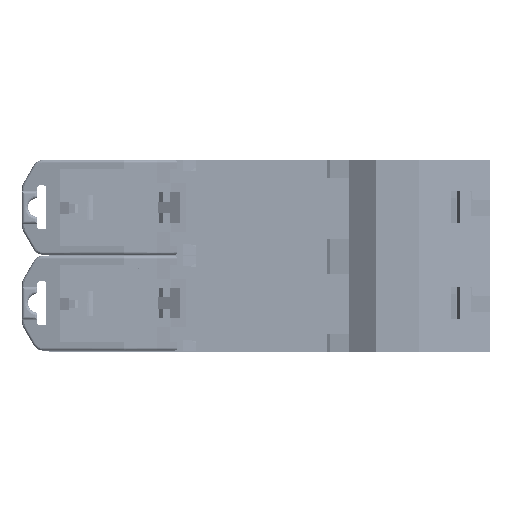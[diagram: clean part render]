
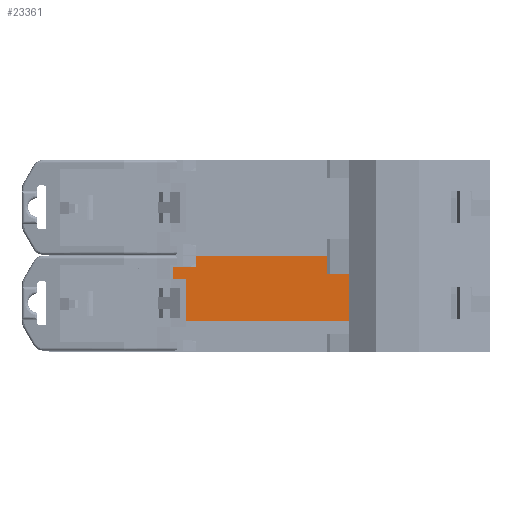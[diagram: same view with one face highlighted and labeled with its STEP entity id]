
A CAD part, front view. The second image highlights one B-rep face of the part: STEP entity #23361.
In plain terms, the highlighted planar face has unit normal (0, -1, 0).
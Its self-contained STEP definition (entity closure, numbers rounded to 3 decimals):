
#366 = VECTOR ( 'NONE', #101845, 1000. ) ;
#2809 = CARTESIAN_POINT ( 'NONE',  ( 58.3, -34.756, 11.9 ) ) ;
#4875 = CARTESIAN_POINT ( 'NONE',  ( 29.912, -34.756, 0. ) ) ;
#6781 = DIRECTION ( 'NONE',  ( 1., 0., 0. ) ) ;
#7064 = VECTOR ( 'NONE', #6781, 1000. ) ;
#7948 = VECTOR ( 'NONE', #75270, 1000. ) ;
#8696 = ORIENTED_EDGE ( 'NONE', *, *, #95084, .F. ) ;
#9612 = CARTESIAN_POINT ( 'NONE',  ( 32.281, -34.756, 8.8 ) ) ;
#9728 = VECTOR ( 'NONE', #42551, 1000. ) ;
#10364 = CARTESIAN_POINT ( 'NONE',  ( 54., -34.756, 3. ) ) ;
#12392 = LINE ( 'NONE', #100630, #9728 ) ;
#12723 = CARTESIAN_POINT ( 'NONE',  ( 22.8, -34.756, 0. ) ) ;
#13072 = LINE ( 'NONE', #65602, #32553 ) ;
#13107 = CARTESIAN_POINT ( 'NONE',  ( 22.8, -34.756, 8.8 ) ) ;
#15690 = EDGE_CURVE ( 'NONE', #76528, #50829, #84784, .T. ) ;
#17261 = ORIENTED_EDGE ( 'NONE', *, *, #61317, .F. ) ;
#22190 = LINE ( 'NONE', #57287, #88433 ) ;
#23361 = ADVANCED_FACE ( 'NONE', ( #84633 ), #26344, .F. ) ;
#24181 = DIRECTION ( 'NONE',  ( 0., 0., 1. ) ) ;
#26344 = PLANE ( 'NONE',  #74393 ) ;
#28979 = EDGE_CURVE ( 'NONE', #38054, #76528, #85194, .T. ) ;
#29376 = CARTESIAN_POINT ( 'NONE',  ( 32.281, -34.756, 2. ) ) ;
#29742 = ORIENTED_EDGE ( 'NONE', *, *, #28979, .F. ) ;
#30069 = VERTEX_POINT ( 'NONE', #44035 ) ;
#31857 = VECTOR ( 'NONE', #54830, 1000. ) ;
#32553 = VECTOR ( 'NONE', #24181, 1000. ) ;
#34026 = EDGE_CURVE ( 'NONE', #76989, #42944, #76825, .T. ) ;
#34682 = DIRECTION ( 'NONE',  ( 0., 1., 0. ) ) ;
#37387 = ORIENTED_EDGE ( 'NONE', *, *, #72966, .F. ) ;
#37729 = DIRECTION ( 'NONE',  ( -1., 0., 0. ) ) ;
#37835 = LINE ( 'NONE', #29376, #79406 ) ;
#38030 = VECTOR ( 'NONE', #38221, 1000. ) ;
#38054 = VERTEX_POINT ( 'NONE', #71700 ) ;
#38221 = DIRECTION ( 'NONE',  ( 0., 0., -1. ) ) ;
#39400 = ORIENTED_EDGE ( 'NONE', *, *, #50722, .T. ) ;
#42551 = DIRECTION ( 'NONE',  ( 0., 0., -1. ) ) ;
#42944 = VERTEX_POINT ( 'NONE', #52191 ) ;
#43574 = VERTEX_POINT ( 'NONE', #78594 ) ;
#44035 = CARTESIAN_POINT ( 'NONE',  ( 58.3, -34.756, 2. ) ) ;
#44477 = CARTESIAN_POINT ( 'NONE',  ( 22.8, -34.756, 11.9 ) ) ;
#44924 = ORIENTED_EDGE ( 'NONE', *, *, #60526, .F. ) ;
#45896 = CARTESIAN_POINT ( 'NONE',  ( 25.85, -34.756, 0. ) ) ;
#50722 = EDGE_CURVE ( 'NONE', #42944, #43574, #88737, .T. ) ;
#50829 = VERTEX_POINT ( 'NONE', #45896 ) ;
#52191 = CARTESIAN_POINT ( 'NONE',  ( 54., -34.756, 0. ) ) ;
#54830 = DIRECTION ( 'NONE',  ( 0., 0., 1. ) ) ;
#55539 = ORIENTED_EDGE ( 'NONE', *, *, #15690, .F. ) ;
#57287 = CARTESIAN_POINT ( 'NONE',  ( 32.281, -34.756, 0. ) ) ;
#60508 = VECTOR ( 'NONE', #98060, 1000. ) ;
#60526 = EDGE_CURVE ( 'NONE', #61112, #30069, #12392, .T. ) ;
#61112 = VERTEX_POINT ( 'NONE', #2809 ) ;
#61317 = EDGE_CURVE ( 'NONE', #71030, #61112, #90168, .T. ) ;
#64913 = CARTESIAN_POINT ( 'NONE',  ( 32.281, -34.756, 11.9 ) ) ;
#65602 = CARTESIAN_POINT ( 'NONE',  ( 29.912, -34.756, 8.8 ) ) ;
#65628 = DIRECTION ( 'NONE',  ( 1., 0., 0. ) ) ;
#66356 = CARTESIAN_POINT ( 'NONE',  ( 25.85, -34.756, 3.2 ) ) ;
#66917 = CARTESIAN_POINT ( 'NONE',  ( 32.281, -34.756, 0. ) ) ;
#69724 = EDGE_LOOP ( 'NONE', ( #39400, #100414, #44924, #17261, #8696, #80837, #55539, #29742, #37387, #106395 ) ) ;
#71030 = VERTEX_POINT ( 'NONE', #44477 ) ;
#71639 = CARTESIAN_POINT ( 'NONE',  ( 25.85, -34.756, 8.8 ) ) ;
#71700 = CARTESIAN_POINT ( 'NONE',  ( 29.912, -34.756, 3.2 ) ) ;
#72966 = EDGE_CURVE ( 'NONE', #76989, #38054, #13072, .T. ) ;
#74393 = AXIS2_PLACEMENT_3D ( 'NONE', #9612, #34682, #92719 ) ;
#75270 = DIRECTION ( 'NONE',  ( 1., 0., 0. ) ) ;
#76528 = VERTEX_POINT ( 'NONE', #66356 ) ;
#76825 = LINE ( 'NONE', #66917, #7948 ) ;
#76989 = VERTEX_POINT ( 'NONE', #4875 ) ;
#78594 = CARTESIAN_POINT ( 'NONE',  ( 54., -34.756, 2. ) ) ;
#79406 = VECTOR ( 'NONE', #37729, 1000. ) ;
#80837 = ORIENTED_EDGE ( 'NONE', *, *, #83805, .T. ) ;
#83579 = EDGE_CURVE ( 'NONE', #30069, #43574, #37835, .T. ) ;
#83805 = EDGE_CURVE ( 'NONE', #97055, #50829, #22190, .T. ) ;
#84633 = FACE_OUTER_BOUND ( 'NONE', #69724, .T. ) ;
#84784 = LINE ( 'NONE', #71639, #38030 ) ;
#85194 = LINE ( 'NONE', #106081, #60508 ) ;
#88433 = VECTOR ( 'NONE', #65628, 1000. ) ;
#88737 = LINE ( 'NONE', #10364, #366 ) ;
#90168 = LINE ( 'NONE', #64913, #7064 ) ;
#92719 = DIRECTION ( 'NONE',  ( -1., 0., 0. ) ) ;
#95084 = EDGE_CURVE ( 'NONE', #97055, #71030, #98038, .T. ) ;
#97055 = VERTEX_POINT ( 'NONE', #12723 ) ;
#98038 = LINE ( 'NONE', #13107, #31857 ) ;
#98060 = DIRECTION ( 'NONE',  ( -1., 0., 0. ) ) ;
#100414 = ORIENTED_EDGE ( 'NONE', *, *, #83579, .F. ) ;
#100630 = CARTESIAN_POINT ( 'NONE',  ( 58.3, -34.756, 8.8 ) ) ;
#101845 = DIRECTION ( 'NONE',  ( 0., 0., 1. ) ) ;
#106081 = CARTESIAN_POINT ( 'NONE',  ( 32.281, -34.756, 3.2 ) ) ;
#106395 = ORIENTED_EDGE ( 'NONE', *, *, #34026, .T. ) ;
